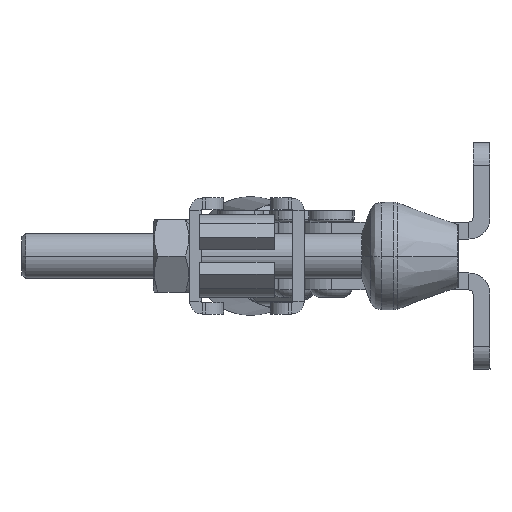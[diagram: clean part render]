
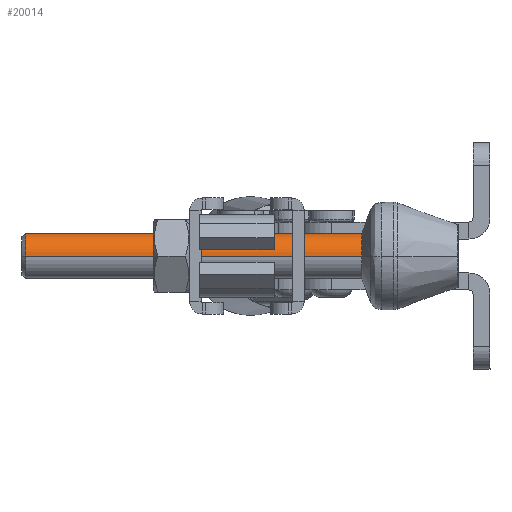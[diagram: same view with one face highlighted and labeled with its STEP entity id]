
A CAD part, left-side view. The second image highlights one B-rep face of the part: STEP entity #20014.
In plain terms, the highlighted cylindrical face has radius 4 mm (diameter 8 mm), a partial arc.
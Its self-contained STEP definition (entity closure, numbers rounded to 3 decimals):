
#851 = CARTESIAN_POINT ( 'NONE',  ( -17.033, 0., -4. ) ) ;
#1018 = CARTESIAN_POINT ( 'NONE',  ( -76.375, 0., 0. ) ) ;
#1205 = EDGE_CURVE ( 'NONE', #9794, #7159, #1742, .T. ) ;
#1742 = LINE ( 'NONE', #26007, #11075 ) ;
#2141 = CARTESIAN_POINT ( 'NONE',  ( -76.375, 0., -4. ) ) ;
#3054 = LINE ( 'NONE', #8611, #8416 ) ;
#4213 = VERTEX_POINT ( 'NONE', #15411 ) ;
#4511 = DIRECTION ( 'NONE',  ( -1., 0., 0. ) ) ;
#5498 = ORIENTED_EDGE ( 'NONE', *, *, #10165, .F. ) ;
#6832 = CIRCLE ( 'NONE', #21135, 4. ) ;
#6964 = CARTESIAN_POINT ( 'NONE',  ( -77., 0., 0. ) ) ;
#7159 = VERTEX_POINT ( 'NONE', #2141 ) ;
#7230 = CYLINDRICAL_SURFACE ( 'NONE', #25136, 4. ) ;
#7485 = DIRECTION ( 'NONE',  ( 0., 0., 1. ) ) ;
#7986 = CIRCLE ( 'NONE', #12174, 4. ) ;
#8416 = VECTOR ( 'NONE', #4511, 1000. ) ;
#8611 = CARTESIAN_POINT ( 'NONE',  ( -77., 0., 4. ) ) ;
#8673 = CARTESIAN_POINT ( 'NONE',  ( -76.375, 0., 4. ) ) ;
#9404 = DIRECTION ( 'NONE',  ( -1., 0., 0. ) ) ;
#9546 = EDGE_CURVE ( 'NONE', #21297, #7159, #7986, .T. ) ;
#9794 = VERTEX_POINT ( 'NONE', #851 ) ;
#10165 = EDGE_CURVE ( 'NONE', #4213, #21297, #3054, .T. ) ;
#11075 = VECTOR ( 'NONE', #9404, 1000. ) ;
#11836 = DIRECTION ( 'NONE',  ( 0., 0., 1. ) ) ;
#12174 = AXIS2_PLACEMENT_3D ( 'NONE', #1018, #25540, #7485 ) ;
#12897 = DIRECTION ( 'NONE',  ( 0., 0., 1. ) ) ;
#15260 = DIRECTION ( 'NONE',  ( -1., 0., 0. ) ) ;
#15411 = CARTESIAN_POINT ( 'NONE',  ( -17.033, 0., 4. ) ) ;
#15762 = ORIENTED_EDGE ( 'NONE', *, *, #9546, .F. ) ;
#15771 = CARTESIAN_POINT ( 'NONE',  ( -17.033, 0., 0. ) ) ;
#16046 = EDGE_CURVE ( 'NONE', #4213, #9794, #6832, .T. ) ;
#17698 = EDGE_LOOP ( 'NONE', ( #21934, #22006, #15762, #5498 ) ) ;
#17887 = DIRECTION ( 'NONE',  ( -1., 0., 0. ) ) ;
#20014 = ADVANCED_FACE ( 'NONE', ( #25284 ), #7230, .T. ) ;
#21135 = AXIS2_PLACEMENT_3D ( 'NONE', #15771, #17887, #11836 ) ;
#21297 = VERTEX_POINT ( 'NONE', #8673 ) ;
#21934 = ORIENTED_EDGE ( 'NONE', *, *, #16046, .T. ) ;
#22006 = ORIENTED_EDGE ( 'NONE', *, *, #1205, .T. ) ;
#25136 = AXIS2_PLACEMENT_3D ( 'NONE', #6964, #15260, #12897 ) ;
#25284 = FACE_OUTER_BOUND ( 'NONE', #17698, .T. ) ;
#25540 = DIRECTION ( 'NONE',  ( -1., 0., 0. ) ) ;
#26007 = CARTESIAN_POINT ( 'NONE',  ( -77., 0., -4. ) ) ;
